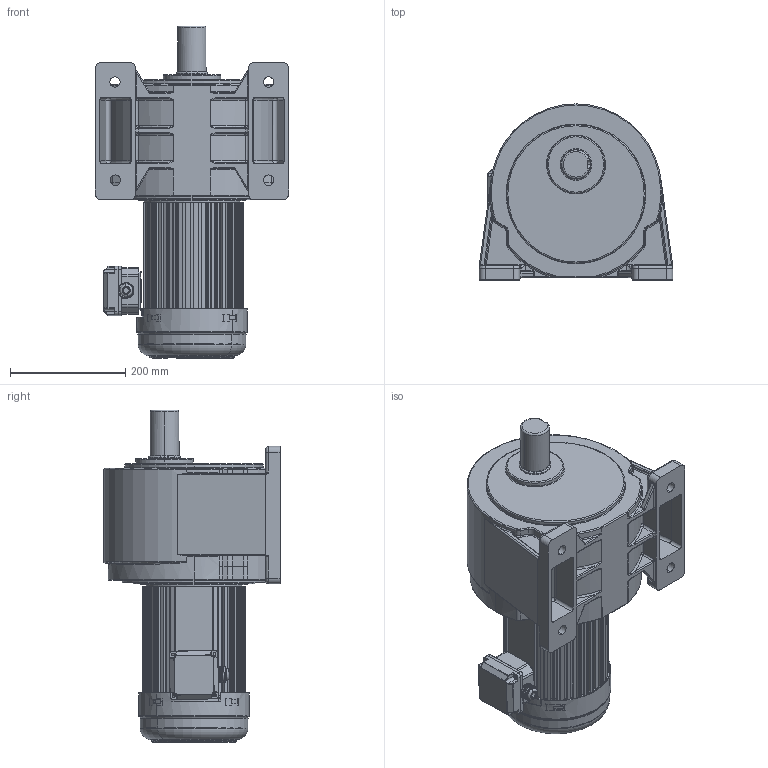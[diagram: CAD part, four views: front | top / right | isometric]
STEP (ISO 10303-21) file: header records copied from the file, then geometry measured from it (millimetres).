
FILE_DESCRIPTION (( 'STEP AP203' ), '1' );
FILE_NAME ('2200W饜6#湍价陬拏宒.STEP', '2020-04-18T01:34:46', ( 'china' ), ( 'china' ), 'SwSTEP 2.0', 'SolidWorks 2019', '' );
FILE_SCHEMA (( 'CONFIG_CONTROL_DESIGN' ));
Length unit declared in the file: millimetre
Products named in the file (8): 湍价陬諉盄碟裔; 瑞欶; 2200W饜6#湍价陬拏宒; 蜊輛綴諉盄碟釱3; 諉芛; 2200W儂褲; 1500W6#拏宒眊极; 1500W棠憤迖殤
Assembly tree (7 placements, depth 2):
  2200W饜6#湍价陬拏宒
    瑞欶
    蜊輛綴諉盄碟釱3
    諉芛
    2200W儂褲
    1500W6#拏宒眊极
    1500W棠憤迖殤
    湍价陬諉盄碟裔
Bounding box: 335 x 305 x 574.98 mm (x, y, z)
Volume: 16708485.9 mm3; surface area: 1231712.2 mm2
Topology: 7 solids, 11 shells, 2409 faces, 6540 edges, 4168 vertices
Faces by surface type: plane 1114, cylinder 942, torus 166, bspline 105, sphere 58, cone 24
Entity records: 89982 total; most frequent: CARTESIAN_POINT 27444, ORIENTED_EDGE 12984, DIRECTION 12886, EDGE_CURVE 6492, AXIS2_PLACEMENT_3D 4447, VERTEX_POINT 4153, VECTOR 3992, LINE 3992
